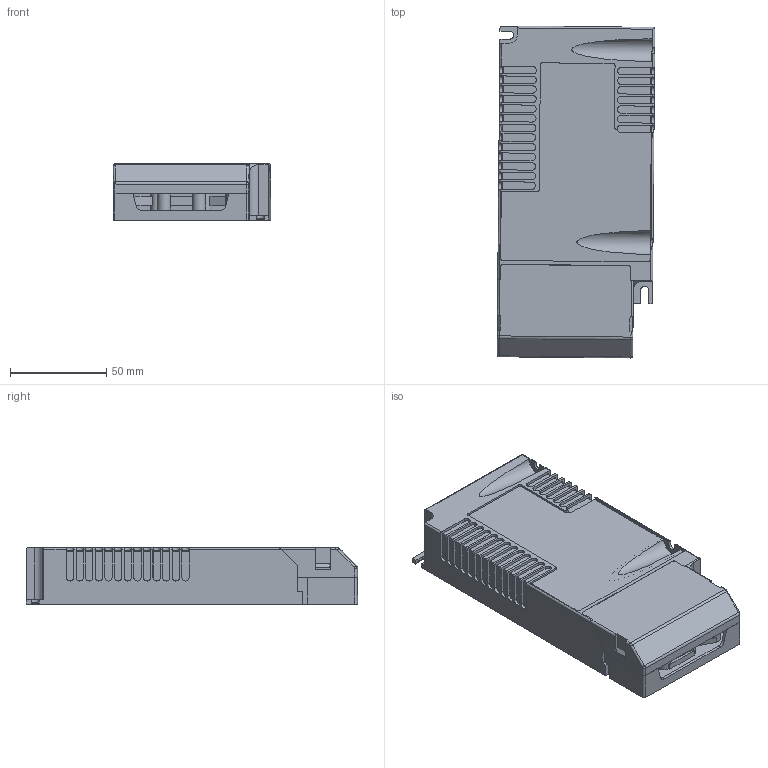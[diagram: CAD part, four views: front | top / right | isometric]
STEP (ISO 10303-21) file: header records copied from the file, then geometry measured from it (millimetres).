
FILE_DESCRIPTION((''),'2;1');
FILE_NAME('7760212_ASM','2014-04-06T',('asko'),(''),'PRO/ENGINEER BY PARAMETRIC TECHNOLOGY CORPORATION, 2012200','PRO/ENGINEER BY PARAMETRIC TECHNOLOGY CORPORATION, 2012200','');
FILE_SCHEMA(('CONFIG_CONTROL_DESIGN'));
Length unit declared in the file: millimetre
Products named in the file (7): 7760212; LC1X70_BOTTOM; PCB_7760212; WAGO_250_204_4; LC1X70W_BOTTOM; LC1X70W; 7760212_ASM
Assembly tree (8 placements, depth 2):
  7760212_ASM
    7760212
    LC1X70_BOTTOM
    PCB_7760212
    WAGO_250_204_4  x3
    LC1X70W_BOTTOM
    LC1X70W
Bounding box: 82.01 x 172.53 x 29.4 mm (x, y, z)
Volume: 73049.8 mm3; surface area: 126498.6 mm2
Topology: 10 solids, 10 shells, 807 faces, 2404 edges, 1572 vertices
Faces by surface type: plane 575, cylinder 228, bspline 2, torus 2
Entity records: 22337 total; most frequent: CARTESIAN_POINT 4481, ORIENTED_EDGE 3892, DIRECTION 3528, EDGE_CURVE 1946, VECTOR 1564, LINE 1564, VERTEX_POINT 1272, AXIS2_PLACEMENT_3D 982
